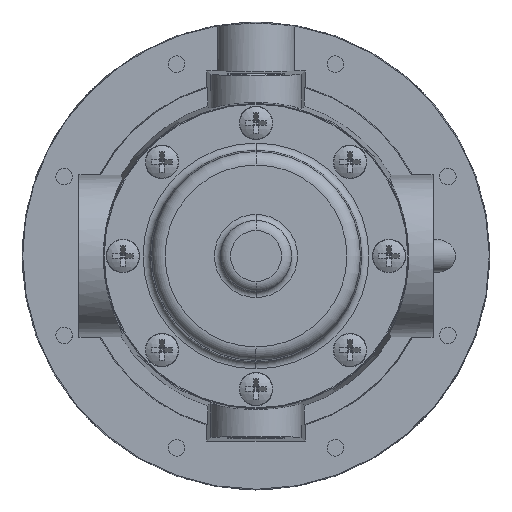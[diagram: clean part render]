
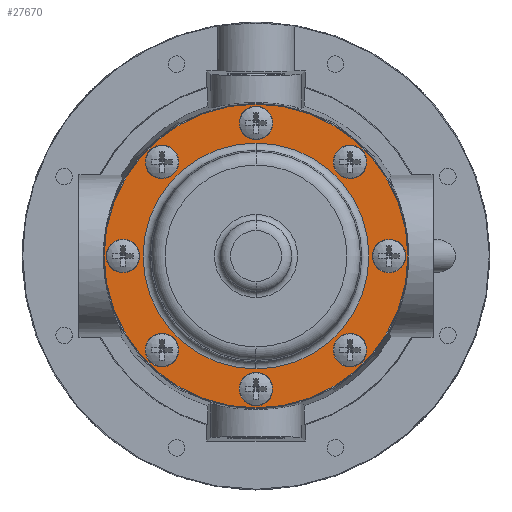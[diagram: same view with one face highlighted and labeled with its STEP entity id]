
A CAD part, front view. The second image highlights one B-rep face of the part: STEP entity #27670.
In plain terms, the highlighted planar face has unit normal (0, -1, 0).
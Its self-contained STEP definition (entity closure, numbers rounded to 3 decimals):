
#1453=FACE_BOUND('',#6297,.T.);
#1454=FACE_BOUND('',#6298,.T.);
#1455=FACE_BOUND('',#6299,.T.);
#1456=FACE_BOUND('',#6300,.T.);
#1457=FACE_BOUND('',#6301,.T.);
#1458=FACE_BOUND('',#6302,.T.);
#1459=FACE_BOUND('',#6303,.T.);
#1460=FACE_BOUND('',#6304,.T.);
#1461=FACE_BOUND('',#6305,.T.);
#2732=CIRCLE('',#30457,2.578);
#2734=CIRCLE('',#30460,2.578);
#2736=CIRCLE('',#30463,2.578);
#2738=CIRCLE('',#30466,2.578);
#2740=CIRCLE('',#30469,2.578);
#2742=CIRCLE('',#30472,2.578);
#2744=CIRCLE('',#30475,2.578);
#2751=CIRCLE('',#30484,37.148);
#2756=CIRCLE('',#30491,27.635);
#2758=CIRCLE('',#30494,2.578);
#2760=CIRCLE('',#30497,27.635);
#4446=FACE_OUTER_BOUND('',#6296,.T.);
#6296=EDGE_LOOP('',(#21770));
#6297=EDGE_LOOP('',(#21771));
#6298=EDGE_LOOP('',(#21772));
#6299=EDGE_LOOP('',(#21773));
#6300=EDGE_LOOP('',(#21774));
#6301=EDGE_LOOP('',(#21775));
#6302=EDGE_LOOP('',(#21776));
#6303=EDGE_LOOP('',(#21777));
#6304=EDGE_LOOP('',(#21778));
#6305=EDGE_LOOP('',(#21779,#21780));
#11900=VERTEX_POINT('',#55067);
#11902=VERTEX_POINT('',#55073);
#11904=VERTEX_POINT('',#55079);
#11906=VERTEX_POINT('',#55085);
#11908=VERTEX_POINT('',#55091);
#11910=VERTEX_POINT('',#55097);
#11912=VERTEX_POINT('',#55103);
#11918=VERTEX_POINT('',#55119);
#11922=VERTEX_POINT('',#55131);
#11923=VERTEX_POINT('',#55133);
#11924=VERTEX_POINT('',#55137);
#15297=EDGE_CURVE('',#11900,#11900,#2732,.T.);
#15300=EDGE_CURVE('',#11902,#11902,#2734,.T.);
#15303=EDGE_CURVE('',#11904,#11904,#2736,.T.);
#15306=EDGE_CURVE('',#11906,#11906,#2738,.T.);
#15309=EDGE_CURVE('',#11908,#11908,#2740,.T.);
#15312=EDGE_CURVE('',#11910,#11910,#2742,.T.);
#15315=EDGE_CURVE('',#11912,#11912,#2744,.T.);
#15324=EDGE_CURVE('',#11918,#11918,#2751,.T.);
#15330=EDGE_CURVE('',#11923,#11922,#2756,.T.);
#15332=EDGE_CURVE('',#11924,#11924,#2758,.T.);
#15335=EDGE_CURVE('',#11922,#11923,#2760,.T.);
#21770=ORIENTED_EDGE('',*,*,#15324,.F.);
#21771=ORIENTED_EDGE('',*,*,#15332,.T.);
#21772=ORIENTED_EDGE('',*,*,#15297,.T.);
#21773=ORIENTED_EDGE('',*,*,#15300,.T.);
#21774=ORIENTED_EDGE('',*,*,#15303,.T.);
#21775=ORIENTED_EDGE('',*,*,#15306,.T.);
#21776=ORIENTED_EDGE('',*,*,#15309,.T.);
#21777=ORIENTED_EDGE('',*,*,#15312,.T.);
#21778=ORIENTED_EDGE('',*,*,#15315,.T.);
#21779=ORIENTED_EDGE('',*,*,#15330,.T.);
#21780=ORIENTED_EDGE('',*,*,#15335,.T.);
#25172=PLANE('',#30498);
#27670=ADVANCED_FACE('',(#4446,#1453,#1454,#1455,#1456,#1457,#1458,#1459,
#1460,#1461),#25172,.F.);
#30457=AXIS2_PLACEMENT_3D('',#55068,#36569,#36570);
#30460=AXIS2_PLACEMENT_3D('',#55074,#36576,#36577);
#30463=AXIS2_PLACEMENT_3D('',#55080,#36583,#36584);
#30466=AXIS2_PLACEMENT_3D('',#55086,#36590,#36591);
#30469=AXIS2_PLACEMENT_3D('',#55092,#36597,#36598);
#30472=AXIS2_PLACEMENT_3D('',#55098,#36604,#36605);
#30475=AXIS2_PLACEMENT_3D('',#55104,#36611,#36612);
#30484=AXIS2_PLACEMENT_3D('',#55121,#36631,#36632);
#30491=AXIS2_PLACEMENT_3D('',#55134,#36646,#36647);
#30494=AXIS2_PLACEMENT_3D('',#55138,#36652,#36653);
#30497=AXIS2_PLACEMENT_3D('',#55143,#36659,#36660);
#30498=AXIS2_PLACEMENT_3D('',#55144,#36661,#36662);
#36569=DIRECTION('center_axis',(0.,1.,0.));
#36570=DIRECTION('ref_axis',(0.,0.,-1.));
#36576=DIRECTION('center_axis',(0.,1.,0.));
#36577=DIRECTION('ref_axis',(0.,0.,-1.));
#36583=DIRECTION('center_axis',(0.,1.,0.));
#36584=DIRECTION('ref_axis',(0.,0.,-1.));
#36590=DIRECTION('center_axis',(0.,1.,0.));
#36591=DIRECTION('ref_axis',(0.,0.,-1.));
#36597=DIRECTION('center_axis',(0.,1.,0.));
#36598=DIRECTION('ref_axis',(0.,0.,-1.));
#36604=DIRECTION('center_axis',(0.,1.,0.));
#36605=DIRECTION('ref_axis',(0.,0.,-1.));
#36611=DIRECTION('center_axis',(0.,1.,0.));
#36612=DIRECTION('ref_axis',(0.,0.,-1.));
#36631=DIRECTION('center_axis',(0.,1.,0.));
#36632=DIRECTION('ref_axis',(0.,0.,1.));
#36646=DIRECTION('center_axis',(0.,1.,0.));
#36647=DIRECTION('ref_axis',(0.,0.,1.));
#36652=DIRECTION('center_axis',(0.,1.,0.));
#36653=DIRECTION('ref_axis',(0.,0.,-1.));
#36659=DIRECTION('center_axis',(0.,1.,0.));
#36660=DIRECTION('ref_axis',(0.,0.,-1.));
#36661=DIRECTION('center_axis',(0.,1.,0.));
#36662=DIRECTION('ref_axis',(0.,0.,1.));
#55067=CARTESIAN_POINT('',(-35.116,-79.765,0.));
#55068=CARTESIAN_POINT('Origin',(-32.537,-79.765,0.));
#55073=CARTESIAN_POINT('',(-25.586,-79.765,-23.007));
#55074=CARTESIAN_POINT('Origin',(-23.007,-79.765,-23.007));
#55079=CARTESIAN_POINT('',(-2.578,-79.765,-32.537));
#55080=CARTESIAN_POINT('Origin',(0.,-79.765,-32.537));
#55085=CARTESIAN_POINT('',(20.429,-79.765,-23.007));
#55086=CARTESIAN_POINT('Origin',(23.007,-79.765,-23.007));
#55091=CARTESIAN_POINT('',(29.959,-79.765,0.));
#55092=CARTESIAN_POINT('Origin',(32.537,-79.765,0.));
#55097=CARTESIAN_POINT('',(20.429,-79.765,23.007));
#55098=CARTESIAN_POINT('Origin',(23.007,-79.765,23.007));
#55103=CARTESIAN_POINT('',(-2.578,-79.765,32.537));
#55104=CARTESIAN_POINT('Origin',(0.,-79.765,32.537));
#55119=CARTESIAN_POINT('',(37.148,-79.765,0.));
#55121=CARTESIAN_POINT('Origin',(0.,-79.765,0.));
#55131=CARTESIAN_POINT('',(0.,-79.765,-27.635));
#55133=CARTESIAN_POINT('',(0.,-79.765,27.635));
#55134=CARTESIAN_POINT('Origin',(0.,-79.765,0.));
#55137=CARTESIAN_POINT('',(-25.586,-79.765,23.007));
#55138=CARTESIAN_POINT('Origin',(-23.007,-79.765,23.007));
#55143=CARTESIAN_POINT('Origin',(0.,-79.765,0.));
#55144=CARTESIAN_POINT('Origin',(-37.593,-79.765,0.));
